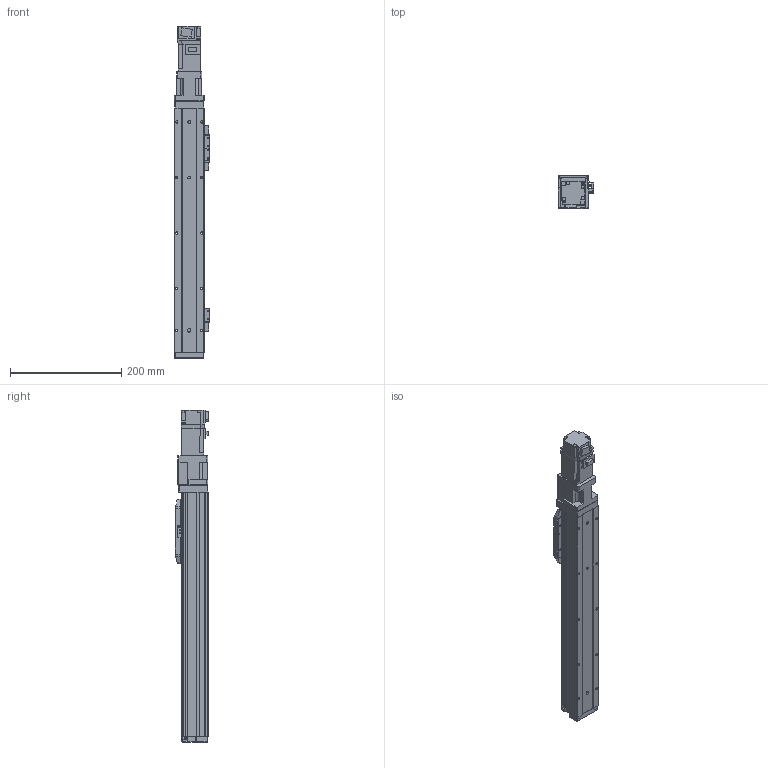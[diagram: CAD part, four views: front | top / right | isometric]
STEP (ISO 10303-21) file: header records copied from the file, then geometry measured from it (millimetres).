
FILE_DESCRIPTION (( 'STEP AP214' ), '1' );
FILE_NAME ('N_GRH5-300-BC-M10.step', '2025-03-14T09:33:53', ( '' ), ( '' ), 'SwSTEP 2.0', 'SolidWorks 2016', '' );
FILE_SCHEMA (( 'AUTOMOTIVE_DESIGN' ));
Length unit declared in the file: millimetre
Products named in the file (5): N_GRH5-GY-011^N_GRH5-300-BC-M10; N_GRH5-GY-004^N_GRH5-300-BC-M10; N_GRH5-BC-008^N_GRH5-300-BC-M10; HF-KP13_100W_Motor^N_GRH5-300-BC-M10; N_GRH5-300-BC-M10
Assembly tree (4 placements, depth 2):
  N_GRH5-300-BC-M10
    N_GRH5-GY-011^N_GRH5-300-BC-M10
    N_GRH5-GY-004^N_GRH5-300-BC-M10
    N_GRH5-BC-008^N_GRH5-300-BC-M10
    HF-KP13_100W_Motor^N_GRH5-300-BC-M10
Bounding box: 64.05 x 60.7 x 597.9 mm (x, y, z)
Volume: 1035463 mm3; surface area: 271922.8 mm2
Topology: 4 solids, 5 shells, 914 faces, 2366 edges, 1503 vertices
Faces by surface type: plane 550, cylinder 304, cone 58, sphere 2
Entity records: 34190 total; most frequent: CARTESIAN_POINT 4826, DIRECTION 4805, ORIENTED_EDGE 4660, EDGE_CURVE 2330, VECTOR 1661, LINE 1661, AXIS2_PLACEMENT_3D 1572, VERTEX_POINT 1501
